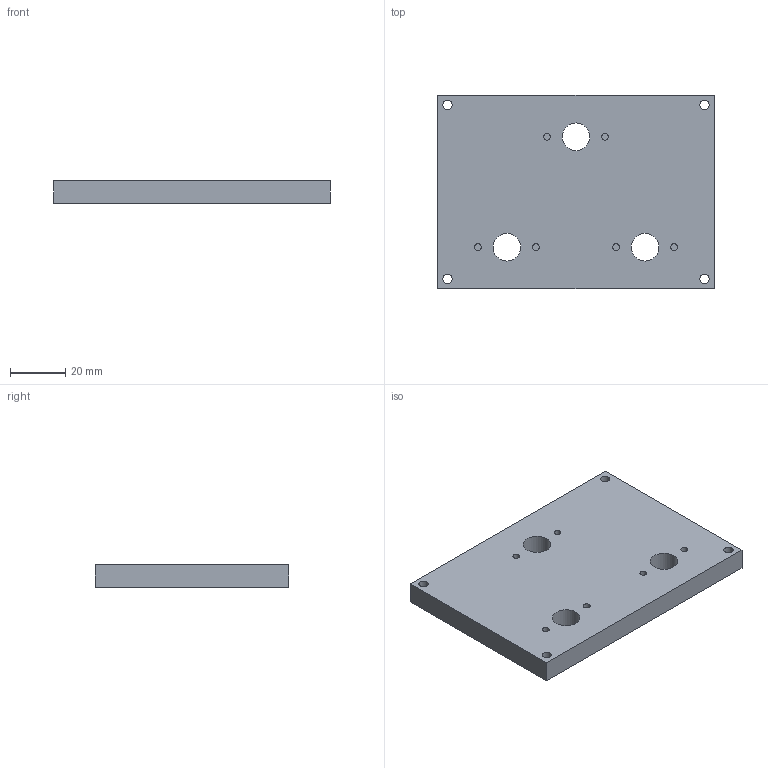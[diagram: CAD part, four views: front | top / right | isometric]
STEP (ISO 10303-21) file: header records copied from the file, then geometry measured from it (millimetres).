
FILE_DESCRIPTION(('Open CASCADE Model'),'2;1');
FILE_NAME('Open CASCADE Shape Model','2026-10-28T05:16:18',('Author'),( 'Open CASCADE'),'Open CASCADE STEP processor 7.8','Open CASCADE 7.8' ,'Unknown');
FILE_SCHEMA(('AUTOMOTIVE_DESIGN { 1 0 10303 214 1 1 1 1 }'));
Length unit declared in the file: millimetre
Products named in the file (1): Open CASCADE STEP translator 7.8 20
Bounding box: 100 x 70 x 8 mm (x, y, z)
Volume: 53647.8 mm3; surface area: 17554.7 mm2
Topology: 1 solids, 1 shells, 25 faces, 51 edges, 34 vertices
Faces by surface type: cylinder 13, plane 12
Full cylindrical faces by diameter (mm): 2.5 x6, 3.4 x4, 10 x3
Entity records: 1372 total; most frequent: DIRECTION 231, CARTESIAN_POINT 213, ORIENTED_EDGE 102, PCURVE 102, DEFINITIONAL_REPRESENTATION 102, LINE 101, VECTOR 101, AXIS2_PLACEMENT_3D 52
